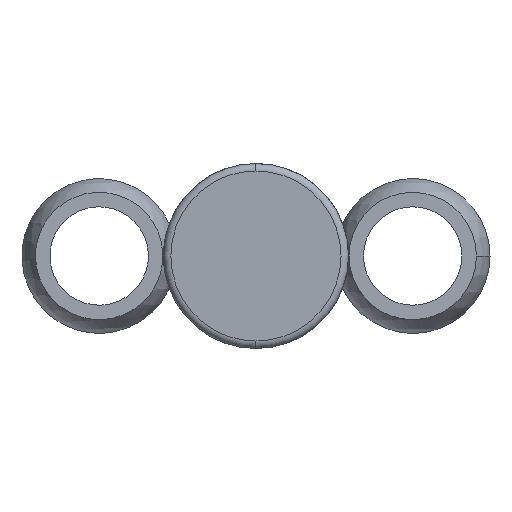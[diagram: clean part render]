
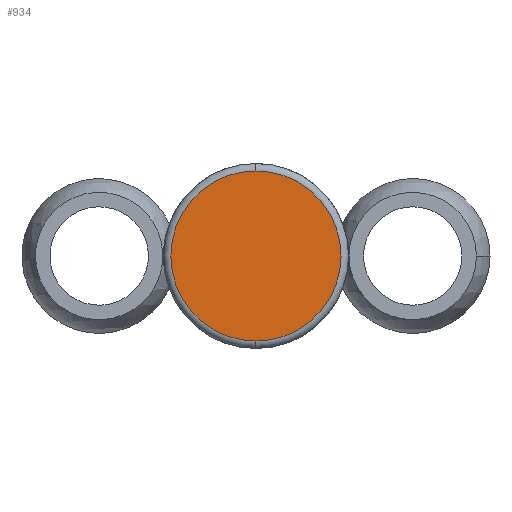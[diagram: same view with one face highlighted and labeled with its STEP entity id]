
A CAD part, front view. The second image highlights one B-rep face of the part: STEP entity #934.
In plain terms, the highlighted planar face has unit normal (0, -1, 0).
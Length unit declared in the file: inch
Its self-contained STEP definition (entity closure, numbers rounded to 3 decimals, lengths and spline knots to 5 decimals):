
#84 = ORIENTED_EDGE ( 'NONE', *, *, #864, .T. ) ;
#105 = DIRECTION ( 'NONE',  ( 0., -1., 0. ) ) ;
#284 = CARTESIAN_POINT ( 'NONE',  ( 0., -1.26, 0. ) ) ;
#294 = VERTEX_POINT ( 'NONE', #1348 ) ;
#586 = EDGE_CURVE ( 'NONE', #294, #624, #788, .T. ) ;
#622 = EDGE_LOOP ( 'NONE', ( #84, #716 ) ) ;
#624 = VERTEX_POINT ( 'NONE', #661 ) ;
#625 = DIRECTION ( 'NONE',  ( 0., 0., 1. ) ) ;
#661 = CARTESIAN_POINT ( 'NONE',  ( 0., -1.26, 0.34402 ) ) ;
#673 = DIRECTION ( 'NONE',  ( 0., 0., 1. ) ) ;
#716 = ORIENTED_EDGE ( 'NONE', *, *, #586, .T. ) ;
#748 = CIRCLE ( 'NONE', #1238, 0.34402 ) ;
#788 = CIRCLE ( 'NONE', #825, 0.34402 ) ;
#825 = AXIS2_PLACEMENT_3D ( 'NONE', #284, #1267, #673 ) ;
#847 = CARTESIAN_POINT ( 'NONE',  ( 0., -1.26, 0. ) ) ;
#864 = EDGE_CURVE ( 'NONE', #624, #294, #748, .T. ) ;
#934 = ADVANCED_FACE ( 'NONE', ( #965 ), #1358, .F. ) ;
#965 = FACE_OUTER_BOUND ( 'NONE', #622, .T. ) ;
#1112 = DIRECTION ( 'NONE',  ( 0., 1., 0. ) ) ;
#1147 = AXIS2_PLACEMENT_3D ( 'NONE', #1477, #1112, #625 ) ;
#1210 = DIRECTION ( 'NONE',  ( 0., 0., 1. ) ) ;
#1238 = AXIS2_PLACEMENT_3D ( 'NONE', #847, #105, #1210 ) ;
#1267 = DIRECTION ( 'NONE',  ( 0., -1., 0. ) ) ;
#1348 = CARTESIAN_POINT ( 'NONE',  ( 0., -1.26, -0.34402 ) ) ;
#1358 = PLANE ( 'NONE',  #1147 ) ;
#1477 = CARTESIAN_POINT ( 'NONE',  ( 0., -1.26, 0. ) ) ;
